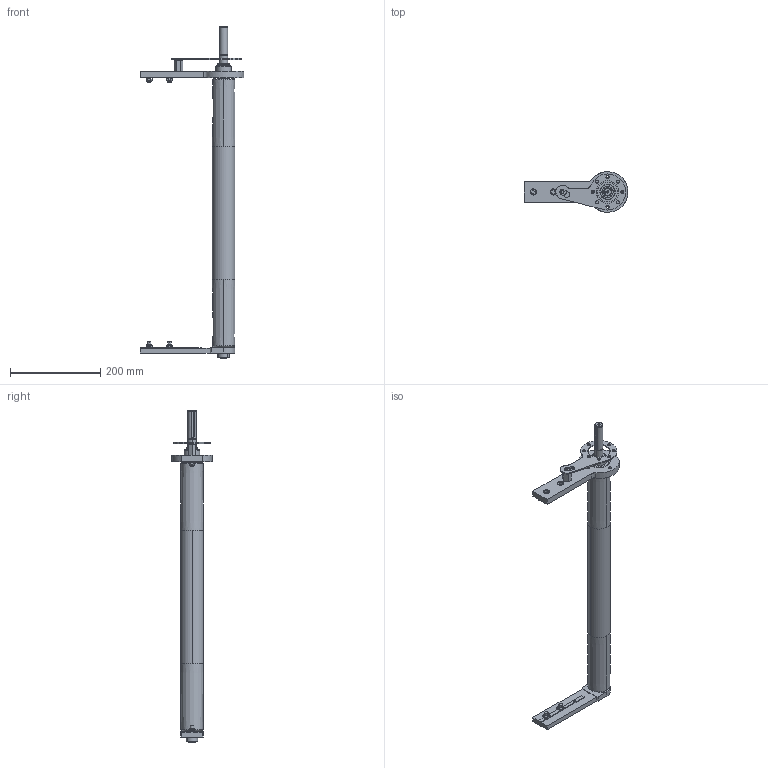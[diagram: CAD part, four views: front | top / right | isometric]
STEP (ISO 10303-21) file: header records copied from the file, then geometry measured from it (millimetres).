
FILE_DESCRIPTION (( 'STEP AP203' ), '1' );
FILE_NAME ('084.050.KD.44.570.STEP', '2019-11-25T08:15:53', ( 'Localadmin' ), ( 'Microsoft' ), 'SwSTEP 2.0', 'SolidWorks 2018', '' );
FILE_SCHEMA (( 'CONFIG_CONTROL_DESIGN' ));
Length unit declared in the file: millimetre
Products named in the file (13): 084.807.001_084.807.001; 084.802.034_084.802.034; 084.807.002_084.807.002; 084.811.002; 084.802.017_084.802.017; 084.050.KD.44.570; 084.811.004; 084.810.001; 084.815.238_Default<A macchina>; 084.301.000 VITI ALUSIC_084.301.003; 084.302.000 DADI ALUSIC 13x13_084.302.004; 084.802.027; 084.807.005
Assembly tree (19 placements, depth 2):
  084.050.KD.44.570
    084.807.002_084.807.002
    084.802.017_084.802.017
    084.811.004
    084.815.238_Default<A macchina>
    084.810.001  x2
    084.301.000 VITI ALUSIC_084.301.003  x4
    084.302.000 DADI ALUSIC 13x13_084.302.004  x4
    084.802.027
    084.807.005
    084.807.001_084.807.001
    084.802.034_084.802.034
    084.811.002
Bounding box: 230 x 90 x 736 mm (x, y, z)
Volume: 764518.8 mm3; surface area: 422311.1 mm2
Topology: 24 solids, 25 shells, 624 faces, 1569 edges, 1016 vertices
Faces by surface type: plane 254, cylinder 233, torus 68, cone 60, sphere 9
Entity records: 16601 total; most frequent: CARTESIAN_POINT 3000, DIRECTION 2736, ORIENTED_EDGE 2386, EDGE_CURVE 1193, AXIS2_PLACEMENT_3D 1103, VERTEX_POINT 773, CIRCLE 607, EDGE_LOOP 572
